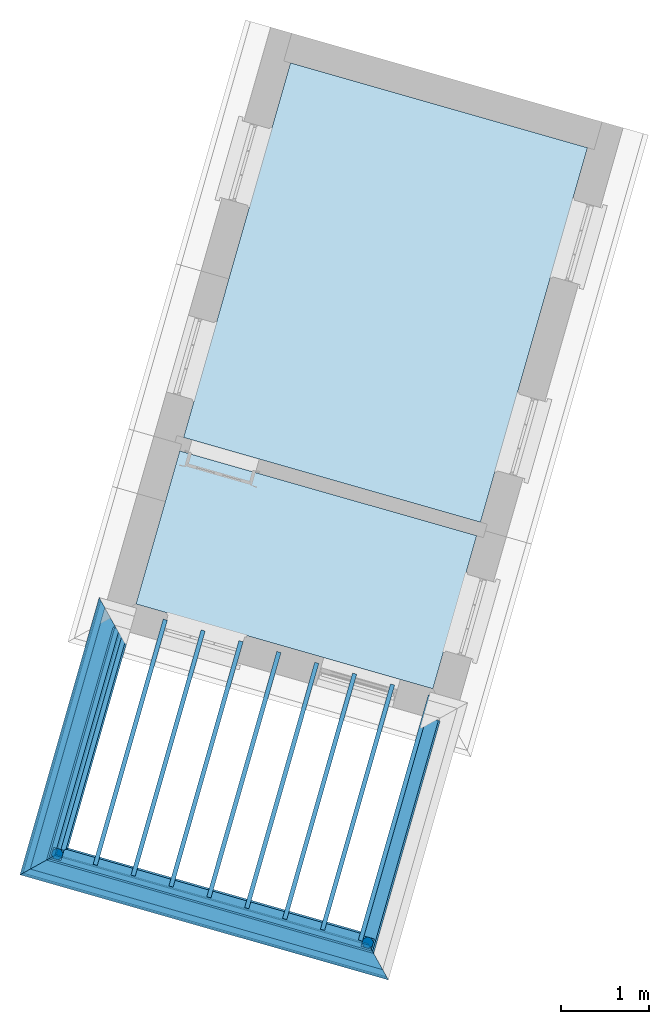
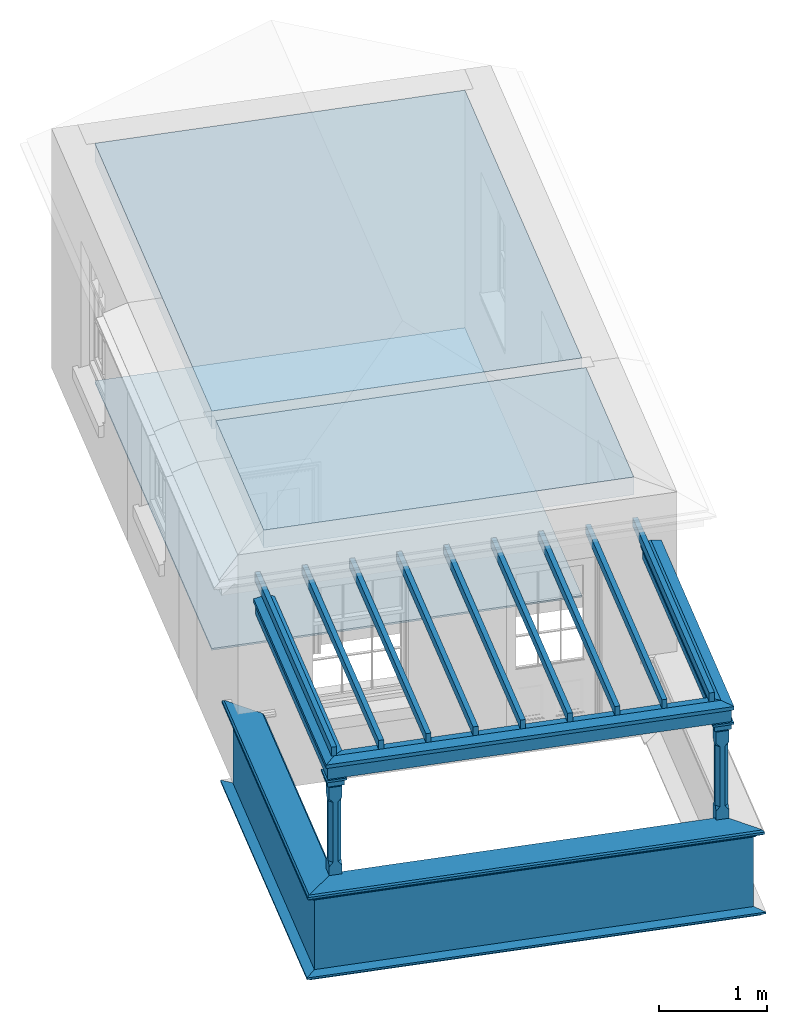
# One storey, part 1 of 4: 15 beams, 6 walls, 3 slabs, 2 columns.
"""IFC4 building model written with IfcOpenShell, lengths in metres."""

from ifc_helpers import new_model, si_unit, frame, origin, origin_with_axes, place, context, subcontext, project, spatial, polyline, outline, extrude, clip, halfspace, faceted_brep, source, transform, mapped, material_profile, profile_set, profile_usage, type_object, type_shapes, element, save


model = new_model("IFC4")

# Units and contexts
model_context = context("Model", 3, world=origin_with_axes())
body_context = subcontext(model_context, "Body", "Model", "MODEL_VIEW")
ifc_project = project(units=[si_unit("PLANEANGLEUNIT", "RADIAN"), si_unit("MASSUNIT", "GRAM", prefix="KILO"), si_unit("FORCEUNIT", "NEWTON", prefix="KILO"), si_unit("LENGTHUNIT", "METRE"), si_unit("AREAUNIT", "SQUARE_METRE"), si_unit("VOLUMEUNIT", "CUBIC_METRE")], contexts=[model_context, model_context])

# Sites, building, storey
site_1_placement = place(None, origin_with_axes())
site_1 = spatial("IfcSite", under=ifc_project, at=site_1_placement, Name="Tamar")
site_2_placement = place(site_1_placement, origin_with_axes())
site_2 = spatial("IfcSite", under=site_1, at=site_2_placement, Name="Site plot-20", CompositionType="ELEMENT")
building_placement = place(None, origin_with_axes())
building = spatial("IfcBuilding", under=site_2, at=building_placement, Name="Building plot-20", CompositionType="ELEMENT")
storey_placement = place(None, frame((0.0, 0.0, 31.85), z_axis=(0.0, 0.0, 1.0), x_axis=(1.0, 0.0, 0.0)))
storey = spatial("IfcBuildingStorey", under=building, at=storey_placement, Name="plot-20 2", CompositionType="ELEMENT", Elevation=31.85)

# Columns
column_type = type_object("IfcColumnType", Name="pergola post", PredefinedType="NOTDEFINED")
shared_shape = source(origin(), body_context, "Body", "Brep", [
    faceted_brep([(0.0246, -0.0615, 1.72), (0.0615, -0.0246, 1.72), (0.0615, -0.0615, 1.766667), (0.0615, -0.0246, 1.044444), (0.0246, -0.0615, 1.044444), (0.0615, 0.0246, 1.72), (0.0615, 0.0615, 1.766667), (-0.0246, -0.0615, 1.72), (-0.0615, -0.0615, 1.766667), (-0.0246, -0.0615, 1.044444), (0.0615, -0.0615, 0.997778), (0.0615, 0.0246, 1.044444), (0.0246, 0.0615, 1.72), (0.0615, 0.0615, 1.891111), (0.0615, -0.0615, 1.891111), (-0.0615, -0.0615, 1.891111), (-0.0615, -0.0246, 1.72), (-0.0615, -0.0246, 1.044444), (-0.0615, -0.0615, 0.997778), (0.0615, 0.0615, 0.997778), (0.0246, 0.0615, 1.044444), (-0.0246, 0.0615, 1.72), (-0.0615, 0.0615, 1.766667), (0.04305, 0.04305, 1.891111), (0.04305, -0.04305, 1.891111), (-0.0615, 0.0615, 1.891111), (-0.04305, -0.04305, 1.891111), (-0.0615, 0.0246, 1.72), (-0.0615, 0.0246, 1.044444), (0.0615, -0.0615, 0.053333), (-0.0615, -0.0615, 0.053333), (0.0615, 0.0615, 0.053333), (-0.0246, 0.0615, 1.044444), (-0.04305, 0.04305, 1.891111), (0.04305, 0.04305, 1.914444), (0.04305, -0.04305, 1.914444), (-0.04305, -0.04305, 1.914444), (-0.0615, 0.0615, 0.997778), (-0.0615, 0.0615, 0.053333), (-0.04305, -0.04305, 0.053333), (0.04305, -0.04305, 0.053333), (0.04305, 0.04305, 0.053333), (-0.04305, 0.04305, 1.914444), (0.07995, 0.07995, 1.914444), (0.07995, -0.07995, 1.914444), (-0.07995, -0.07995, 1.914444), (-0.04305, 0.04305, 0.053333), (-0.04305, -0.04305, 0.0), (0.04305, -0.04305, 0.0), (0.04305, 0.04305, 0.0), (-0.07995, 0.07995, 1.914444), (0.07995, 0.07995, 1.976667), (0.07995, -0.07995, 1.976667), (-0.07995, -0.07995, 1.976667), (-0.04305, 0.04305, 0.0), (-0.07995, 0.07995, 1.976667), (0.0984, 0.0984, 1.976667), (0.0984, -0.0984, 1.976667), (-0.0984, -0.0984, 1.976667), (-0.0984, 0.0984, 1.976667), (0.0984, 0.0984, 2.0), (0.0984, -0.0984, 2.0), (-0.0984, -0.0984, 2.0), (-0.0984, 0.0984, 2.0)], [[[0, 1, 2]], [[3, 1, 0, 4]], [[1, 5, 6, 2]], [[7, 0, 2, 8]], [[4, 0, 7, 9]], [[3, 4, 10]], [[1, 3, 11, 5]], [[5, 12, 6]], [[13, 14, 2, 6]], [[15, 8, 2, 14]], [[8, 16, 7]], [[9, 7, 16, 17]], [[9, 18, 10, 4]], [[3, 10, 19, 11]], [[20, 12, 5, 11]], [[21, 22, 6, 12]], [[14, 13, 23, 24]], [[13, 6, 22, 25]], [[25, 22, 8, 15]], [[26, 15, 14, 24]], [[16, 8, 22, 27]], [[27, 28, 17, 16]], [[17, 18, 9]], [[29, 10, 18, 30]], [[31, 19, 10, 29]], [[20, 11, 19]], [[12, 20, 32, 21]], [[21, 27, 22]], [[33, 23, 13, 25]], [[23, 34, 35, 24]], [[26, 33, 25, 15]], [[36, 26, 24, 35]], [[28, 27, 21, 32]], [[17, 28, 37, 18]], [[38, 30, 18, 37]], [[29, 30, 39, 40]], [[31, 38, 37, 19]], [[40, 41, 31, 29]], [[32, 20, 19, 37]], [[33, 42, 34, 23]], [[43, 44, 35, 34]], [[42, 33, 26, 36]], [[36, 35, 44, 45]], [[28, 32, 37]], [[46, 39, 30, 38]], [[39, 47, 48, 40]], [[46, 38, 31, 41]], [[49, 41, 40, 48]], [[43, 34, 42, 50]], [[43, 51, 52, 44]], [[45, 50, 42, 36]], [[53, 45, 44, 52]], [[46, 54, 47, 39]], [[54, 46, 41, 49]], [[50, 55, 51, 43]], [[56, 57, 52, 51]], [[55, 50, 45, 53]], [[53, 52, 57, 58]], [[56, 51, 55, 59]], [[56, 60, 61, 57]], [[58, 59, 55, 53]], [[62, 58, 57, 61]], [[59, 63, 60, 56]], [[63, 62, 61, 60]], [[58, 62, 63, 59]], [[47, 54, 49, 48]]]),
])
type_shapes(column_type, [shared_shape])
for number, where, z_axis, x_axis, name in (
    (1, (276.24428953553, 284.749435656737, 0.0), (0.0, 0.0, 1.0), (0.961567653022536, -0.274568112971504, 0.0), "pergola post"),
    (2, (279.789367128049, 283.737166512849, 0.0), (0.0, 0.0, 1.0), (0.274568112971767, 0.961567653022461, 0.0), "pergola post"),
):
    element("IfcColumn", number, at=place(storey_placement, frame(where, z_axis=z_axis, x_axis=x_axis)), inside=storey, type_object=column_type, Name=name, context=body_context, shape_type="MappedRepresentation", body=[
        mapped(shared_shape, transform((0.0, 0.0, 0.0), scale=1.0)),
    ])

# Beams
ifc_material_profile_1 = material_profile(None, outline(polyline([(-0.08, -0.7), (0.08, -0.7), (0.08, -0.56), (-0.08, -0.56), (-0.08, -0.7)])))
ifc_profile_set_1 = profile_set([ifc_material_profile_1])
ifc_profile_usage_1 = profile_usage(ifc_profile_set_1)
beam_type_1 = type_object("IfcBeamType", Name="pergola beam_0", PredefinedType="NOTDEFINED", material=ifc_profile_set_1)
beam_1_placement = place(storey_placement, frame((275.969721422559, 283.787868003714, 2.7), z_axis=(0.274568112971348, 0.96156765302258, 0.0), x_axis=(-0.96156765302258, 0.274568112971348, 0.0)))
element("IfcBeam", 3, at=beam_1_placement, inside=storey, type_object=beam_type_1, material=ifc_profile_usage_1, Name="pergola beam_0", context=body_context, shape_type="Clipping", body=[
    clip(clip(extrude(outline(polyline([(-0.08, -0.7), (0.08, -0.7), (0.08, -0.56), (-0.08, -0.56), (-0.08, -0.7)])), origin_with_axes(), (0.0, 0.0, 1.0), 4.66306381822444), halfspace(frame((0.0, 0.0, 3.66306381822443), z_axis=(-1.51602654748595e-14, 0.0, -1.0), x_axis=(0.0, 1.0, 0.0)), True)), halfspace(frame((0.0, 0.0, 1.0), z_axis=(-0.707106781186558, 0.0, -0.707106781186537), x_axis=(0.0, 1.0, 0.0)), False)),
])
ifc_profile_usage_2 = profile_usage(ifc_profile_set_1)
beam_2_placement = place(storey_placement, frame((280.750934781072, 283.462598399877, 2.7), z_axis=(-0.961567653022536, 0.274568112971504, 0.0), x_axis=(-0.274568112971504, -0.961567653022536, 0.0)))
element("IfcBeam", 4, at=beam_2_placement, inside=storey, type_object=beam_type_1, material=ifc_profile_usage_2, Name="pergola beam_0", context=body_context, shape_type="Clipping", body=[
    clip(clip(extrude(outline(polyline([(-0.08, -0.7), (0.08, -0.7), (0.08, -0.56), (-0.08, -0.56), (-0.08, -0.7)])), origin_with_axes(), (0.0, 0.0, 1.0), 5.68676876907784), halfspace(frame((0.0, 0.0, 4.68676876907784), z_axis=(0.707106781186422, 0.0, -0.707106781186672), x_axis=(0.0, 1.0, 0.0)), True)), halfspace(frame((0.0, 0.0, 1.0), z_axis=(-0.707106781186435, 0.0, -0.70710678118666), x_axis=(0.0, 1.0, 0.0)), False)),
])
ifc_profile_usage_3 = profile_usage(ifc_profile_set_1)
beam_3_placement = place(storey_placement, frame((280.795127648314, 287.25945019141, 2.7), z_axis=(-0.274568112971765, -0.961567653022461, 0.0), x_axis=(0.961567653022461, -0.274568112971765, 0.0)))
element("IfcBeam", 5, at=beam_3_placement, inside=storey, type_object=beam_type_1, material=ifc_profile_usage_3, Name="pergola beam_0", context=body_context, shape_type="Clipping", body=[
    clip(clip(extrude(outline(polyline([(-0.08, -0.7), (0.08, -0.7), (0.08, -0.56), (-0.08, -0.56), (-0.08, -0.7)])), origin_with_axes(), (0.0, 0.0, 1.0), 4.6630638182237), halfspace(frame((0.0, 0.0, 3.6630638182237), z_axis=(0.707106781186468, 0.0, -0.707106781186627), x_axis=(0.0, 1.0, 0.0)), True)), halfspace(frame((0.0, 0.0, 1.0), z_axis=(1.99227821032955e-14, 0.0, -1.0), x_axis=(0.0, 1.0, 0.0)), False)),
])
ifc_material_profile_2 = material_profile(None, outline(polyline([(0.0, -0.5), (-0.1, -0.52), (-0.1, -0.56), (0.1, -0.56), (0.1, -0.52), (0.0, -0.5)])))
ifc_profile_set_2 = profile_set([ifc_material_profile_2])
ifc_profile_usage_4 = profile_usage(ifc_profile_set_2)
beam_type_2 = type_object("IfcBeamType", Name="pergola beam_1", PredefinedType="NOTDEFINED", material=ifc_profile_set_2)
beam_4_placement = place(storey_placement, frame((275.969721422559, 283.787868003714, 2.7), z_axis=(0.274568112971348, 0.96156765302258, 0.0), x_axis=(-0.96156765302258, 0.274568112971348, 0.0)))
element("IfcBeam", 6, at=beam_4_placement, inside=storey, type_object=beam_type_2, material=ifc_profile_usage_4, Name="pergola beam_1", context=body_context, shape_type="Clipping", body=[
    clip(clip(extrude(outline(polyline([(0.0, -0.5), (-0.1, -0.52), (-0.1, -0.56), (0.1, -0.56), (0.1, -0.52), (0.0, -0.5)])), origin_with_axes(), (0.0, 0.0, 1.0), 4.66306381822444), halfspace(frame((0.0, 0.0, 3.66306381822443), z_axis=(-1.51602654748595e-14, 0.0, -1.0), x_axis=(0.0, 1.0, 0.0)), True)), halfspace(frame((0.0, 0.0, 1.0), z_axis=(-0.707106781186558, 0.0, -0.707106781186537), x_axis=(0.0, 1.0, 0.0)), False)),
])
ifc_profile_usage_5 = profile_usage(ifc_profile_set_2)
beam_5_placement = place(storey_placement, frame((280.750934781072, 283.462598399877, 2.7), z_axis=(-0.961567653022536, 0.274568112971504, 0.0), x_axis=(-0.274568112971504, -0.961567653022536, 0.0)))
element("IfcBeam", 7, at=beam_5_placement, inside=storey, type_object=beam_type_2, material=ifc_profile_usage_5, Name="pergola beam_1", context=body_context, shape_type="Clipping", body=[
    clip(clip(extrude(outline(polyline([(0.0, -0.5), (-0.1, -0.52), (-0.1, -0.56), (0.1, -0.56), (0.1, -0.52), (0.0, -0.5)])), origin_with_axes(), (0.0, 0.0, 1.0), 5.68676876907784), halfspace(frame((0.0, 0.0, 4.68676876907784), z_axis=(0.707106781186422, 0.0, -0.707106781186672), x_axis=(0.0, 1.0, 0.0)), True)), halfspace(frame((0.0, 0.0, 1.0), z_axis=(-0.707106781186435, 0.0, -0.70710678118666), x_axis=(0.0, 1.0, 0.0)), False)),
])
ifc_profile_usage_6 = profile_usage(ifc_profile_set_2)
beam_6_placement = place(storey_placement, frame((280.795127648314, 287.25945019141, 2.7), z_axis=(-0.274568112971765, -0.961567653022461, 0.0), x_axis=(0.961567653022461, -0.274568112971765, 0.0)))
element("IfcBeam", 8, at=beam_6_placement, inside=storey, type_object=beam_type_2, material=ifc_profile_usage_6, Name="pergola beam_1", context=body_context, shape_type="Clipping", body=[
    clip(clip(extrude(outline(polyline([(0.0, -0.5), (-0.1, -0.52), (-0.1, -0.56), (0.1, -0.56), (0.1, -0.52), (0.0, -0.5)])), origin_with_axes(), (0.0, 0.0, 1.0), 4.6630638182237), halfspace(frame((0.0, 0.0, 3.6630638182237), z_axis=(0.707106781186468, 0.0, -0.707106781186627), x_axis=(0.0, 1.0, 0.0)), True)), halfspace(frame((0.0, 0.0, 1.0), z_axis=(1.99227821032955e-14, 0.0, -1.0), x_axis=(0.0, 1.0, 0.0)), False)),
])
for number, where, name in (
    (9, (276.220250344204, 284.756299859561, 2.2), "My Beam"),
    (10, (276.652955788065, 284.632744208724, 2.2), "My Beam"),
    (11, (277.085661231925, 284.509188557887, 2.2), "My Beam"),
):
    element("IfcBeam", number, at=place(storey_placement, frame(where)), inside=storey, Name=name, ObjectType="Beam", context=body_context, shape_type="SweptSolid", body=[
        extrude(outline(polyline([(0.0, 0.0), (0.0480783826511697, -0.0137284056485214), (0.847912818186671, 2.78737953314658), (0.799834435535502, 2.8011079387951), (0.0, 0.0)])), origin_with_axes(), (0.0, 0.0, 1.0), 0.1),
    ])
for number, where, name in (
    (12, (277.518366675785, 284.38563290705, 2.2), "My Beam"),
    (13, (277.951072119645, 284.262077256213, 2.2), "My Beam"),
):
    element("IfcBeam", number, at=place(storey_placement, frame(where)), inside=storey, Name=name, ObjectType="Beam", context=body_context, shape_type="SweptSolid", body=[
        extrude(outline(polyline([(0.0, 0.0), (0.0480783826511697, -0.0137284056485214), (0.847912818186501, 2.78737953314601), (0.799834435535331, 2.80110793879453), (0.0, 0.0)])), origin_with_axes(), (0.0, 0.0, 1.0), 0.1),
    ])
beam_7_placement = place(storey_placement, frame((278.383777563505, 284.138521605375, 2.2)))
element("IfcBeam", 14, at=beam_7_placement, inside=storey, Name="My Beam", ObjectType="Beam", context=body_context, shape_type="SweptSolid", body=[
    extrude(outline(polyline([(0.0, 0.0), (0.0480783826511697, -0.0137284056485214), (0.847912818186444, 2.7873795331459), (0.799834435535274, 2.80110793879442), (0.0, 0.0)])), origin_with_axes(), (0.0, 0.0, 1.0), 0.1),
])
for number, where, name in (
    (15, (278.816483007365, 284.014965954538, 2.2), "My Beam"),
    (16, (279.249188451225, 283.891410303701, 2.2), "My Beam"),
    (17, (279.681893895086, 283.767854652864, 2.2), "My Beam"),
):
    element("IfcBeam", number, at=place(storey_placement, frame(where)), inside=storey, Name=name, ObjectType="Beam", context=body_context, shape_type="SweptSolid", body=[
        extrude(outline(polyline([(0.0, 0.0), (0.0480783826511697, -0.0137284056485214), (0.847912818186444, 2.78737953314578), (0.799834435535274, 2.8011079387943), (0.0, 0.0)])), origin_with_axes(), (0.0, 0.0, 1.0), 0.1),
    ])

# Slabs
slab_1_placement = place(storey_placement, frame((277.642229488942, 289.353808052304, 2.5)))
element("IfcSlab", 18, at=slab_1_placement, inside=storey, Name="My Slab", ObjectType="Slab", PredefinedType="FLOOR", context=body_context, shape_type="SweptSolid", body=[
    extrude(outline(polyline([(0.0, 0.0), (-0.499214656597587, -1.74830449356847), (2.89201211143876, -2.71664273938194), (3.39122676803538, -0.968338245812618), (0.0, 0.0)])), origin_with_axes(), (0.0, 0.0, 1.0), 0.2),
])
slab_2_placement = place(storey_placement, frame((282.298873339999, 292.817099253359, 2.5)))
element("IfcSlab", 19, at=slab_2_placement, inside=storey, Name="My Slab", ObjectType="Slab", PredefinedType="FLOOR", context=body_context, shape_type="SweptSolid", body=[
    extrude(outline(polyline([(0.0, 0.0), (-3.39122676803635, 0.968338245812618), (-4.61271295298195, -3.30944037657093), (-1.22148618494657, -4.27777862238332), (0.0, 0.0)])), origin_with_axes(), (0.0, 0.0, 1.0), 0.2),
])
slab_3_placement = place(storey_placement, frame((282.298873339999, 292.817099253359, 0.0)))
element("IfcSlab", 20, at=slab_3_placement, inside=storey, Name="My Slab", ObjectType="Slab", PredefinedType="FLOOR", context=body_context, shape_type="SweptSolid", body=[
    extrude(outline(polyline([(0.0, 0.0), (-3.39122676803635, 0.968338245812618), (-4.61271295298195, -3.30944037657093), (-1.22148618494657, -4.27777862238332), (0.0, 0.0)])), origin_with_axes(), (0.0, 0.0, 1.0), 0.02),
])

# Walls
ifc_material_profile_3 = material_profile(None, outline(polyline([(0.25, 0.0), (0.25, 0.795), (0.09, 0.795), (0.09, 0.02), (-0.08, 0.02), (-0.08, 0.0), (0.25, 0.0)])))
ifc_profile_set_3 = profile_set([ifc_material_profile_3])
ifc_profile_usage_7 = profile_usage(ifc_profile_set_3)
wall_type_1 = type_object("IfcWallType", Name="parapet_0", PredefinedType="PARAPET", material=ifc_profile_set_3)
wall_1_placement = place(storey_placement, frame((275.969721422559, 283.787868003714, 0.0), z_axis=(0.274568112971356, 0.961567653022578, 0.0), x_axis=(-0.961567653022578, 0.274568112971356, 0.0)))
element("IfcWall", 21, at=wall_1_placement, inside=storey, type_object=wall_type_1, material=ifc_profile_usage_7, Name="parapet_0", context=body_context, shape_type="Clipping", body=[
    clip(clip(extrude(outline(polyline([(0.25, 0.0), (0.25, 0.795), (0.09, 0.795), (0.09, 0.02), (-0.08, 0.02), (-0.08, 0.0), (0.25, 0.0)])), origin_with_axes(), (0.0, 0.0, 1.0), 4.60306381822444), halfspace(frame((0.0, 0.0, 3.60306381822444), z_axis=(0.707106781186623, 0.0, -0.707106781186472), x_axis=(0.0, 1.0, 0.0)), True)), halfspace(frame((0.0, 0.0, 1.0), z_axis=(-0.707106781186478, 0.0, -0.707106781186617), x_axis=(0.0, 1.0, 0.0)), False)),
])
ifc_profile_usage_8 = profile_usage(ifc_profile_set_3)
wall_2_placement = place(storey_placement, frame((280.750934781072, 283.462598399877, 0.0), z_axis=(-0.961567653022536, 0.274568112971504, 0.0), x_axis=(-0.274568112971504, -0.961567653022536, 0.0)))
element("IfcWall", 22, at=wall_2_placement, inside=storey, type_object=wall_type_1, material=ifc_profile_usage_8, Name="parapet_0", context=body_context, shape_type="Clipping", body=[
    clip(clip(extrude(outline(polyline([(0.25, 0.0), (0.25, 0.795), (0.09, 0.795), (0.09, 0.02), (-0.08, 0.02), (-0.08, 0.0), (0.25, 0.0)])), origin_with_axes(), (0.0, 0.0, 1.0), 5.68676876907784), halfspace(frame((0.0, 0.0, 4.68676876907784), z_axis=(0.707106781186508, 0.0, -0.707106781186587), x_axis=(0.0, 1.0, 0.0)), True)), halfspace(frame((0.0, 0.0, 1.0), z_axis=(-0.70710678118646, 0.0, -0.707106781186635), x_axis=(0.0, 1.0, 0.0)), False)),
])
ifc_material_profile_4 = material_profile(None, outline(polyline([(0.265, 0.795), (0.268, 0.807), (0.274, 0.816), (0.283, 0.822), (0.295, 0.825), (0.295, 0.84), (0.305, 0.84), (0.317, 0.842), (0.326, 0.849), (0.333, 0.858), (0.335, 0.87), (0.333, 0.882), (0.326, 0.891), (0.317, 0.898), (0.305, 0.9), (0.035, 0.9), (0.023, 0.898), (0.014, 0.891), (0.007, 0.882), (0.005, 0.87), (0.007, 0.858), (0.014, 0.849), (0.023, 0.842), (0.035, 0.84), (0.045, 0.84), (0.045, 0.825), (0.057, 0.822), (0.066, 0.816), (0.072, 0.807), (0.075, 0.795), (0.265, 0.795)])))
ifc_profile_set_4 = profile_set([ifc_material_profile_4])
ifc_profile_usage_9 = profile_usage(ifc_profile_set_4)
wall_type_2 = type_object("IfcWallType", Name="parapet_1", PredefinedType="PARAPET", material=ifc_profile_set_4)
wall_3_placement = place(storey_placement, frame((275.969721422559, 283.787868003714, 0.0), z_axis=(0.274568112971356, 0.961567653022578, 0.0), x_axis=(-0.961567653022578, 0.274568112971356, 0.0)))
element("IfcWall", 23, at=wall_3_placement, inside=storey, type_object=wall_type_2, material=ifc_profile_usage_9, Name="parapet_1", context=body_context, shape_type="Clipping", body=[
    clip(clip(extrude(outline(polyline([(0.265, 0.795), (0.268, 0.807), (0.274, 0.816), (0.283, 0.822), (0.295, 0.825), (0.295, 0.84), (0.305, 0.84), (0.317, 0.842), (0.326, 0.849), (0.333, 0.858), (0.335, 0.87), (0.333, 0.882), (0.326, 0.891), (0.317, 0.898), (0.305, 0.9), (0.035, 0.9), (0.023, 0.898), (0.014, 0.891), (0.007, 0.882), (0.005, 0.87), (0.007, 0.858), (0.014, 0.849), (0.023, 0.842), (0.035, 0.84), (0.045, 0.84), (0.045, 0.825), (0.057, 0.822), (0.066, 0.816), (0.072, 0.807), (0.075, 0.795), (0.265, 0.795)])), origin_with_axes(), (0.0, 0.0, 1.0), 4.60306381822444), halfspace(frame((0.0, 0.0, 3.60306381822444), z_axis=(0.707106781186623, 0.0, -0.707106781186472), x_axis=(0.0, 1.0, 0.0)), True)), halfspace(frame((0.0, 0.0, 1.0), z_axis=(-0.707106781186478, 0.0, -0.707106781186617), x_axis=(0.0, 1.0, 0.0)), False)),
])
ifc_profile_usage_10 = profile_usage(ifc_profile_set_4)
wall_4_placement = place(storey_placement, frame((280.750934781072, 283.462598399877, 0.0), z_axis=(-0.961567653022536, 0.274568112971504, 0.0), x_axis=(-0.274568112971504, -0.961567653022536, 0.0)))
element("IfcWall", 24, at=wall_4_placement, inside=storey, type_object=wall_type_2, material=ifc_profile_usage_10, Name="parapet_1", context=body_context, shape_type="Clipping", body=[
    clip(clip(extrude(outline(polyline([(0.265, 0.795), (0.268, 0.807), (0.274, 0.816), (0.283, 0.822), (0.295, 0.825), (0.295, 0.84), (0.305, 0.84), (0.317, 0.842), (0.326, 0.849), (0.333, 0.858), (0.335, 0.87), (0.333, 0.882), (0.326, 0.891), (0.317, 0.898), (0.305, 0.9), (0.035, 0.9), (0.023, 0.898), (0.014, 0.891), (0.007, 0.882), (0.005, 0.87), (0.007, 0.858), (0.014, 0.849), (0.023, 0.842), (0.035, 0.84), (0.045, 0.84), (0.045, 0.825), (0.057, 0.822), (0.066, 0.816), (0.072, 0.807), (0.075, 0.795), (0.265, 0.795)])), origin_with_axes(), (0.0, 0.0, 1.0), 5.68676876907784), halfspace(frame((0.0, 0.0, 4.68676876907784), z_axis=(0.707106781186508, 0.0, -0.707106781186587), x_axis=(0.0, 1.0, 0.0)), True)), halfspace(frame((0.0, 0.0, 1.0), z_axis=(-0.70710678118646, 0.0, -0.707106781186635), x_axis=(0.0, 1.0, 0.0)), False)),
])
ifc_material_profile_5 = material_profile(None, outline(polyline([(0.25, -0.1), (0.265, -0.1), (0.265, -0.085), (0.278, -0.084), (0.289, -0.081), (0.301, -0.074), (0.309, -0.065), (0.315, -0.055), (0.324, -0.044), (0.334, -0.038), (0.345, -0.035), (0.345, -0.015), (0.25, 0.0), (0.25, -0.1)])))
ifc_profile_set_5 = profile_set([ifc_material_profile_5])
ifc_profile_usage_11 = profile_usage(ifc_profile_set_5)
wall_type_3 = type_object("IfcWallType", Name="parapet_2", PredefinedType="PARAPET", material=ifc_profile_set_5)
wall_5_placement = place(storey_placement, frame((275.969721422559, 283.787868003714, 0.0), z_axis=(0.274568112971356, 0.961567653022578, 0.0), x_axis=(-0.961567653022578, 0.274568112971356, 0.0)))
element("IfcWall", 25, at=wall_5_placement, inside=storey, type_object=wall_type_3, material=ifc_profile_usage_11, Name="parapet_2", context=body_context, shape_type="Clipping", body=[
    clip(clip(extrude(outline(polyline([(0.25, -0.1), (0.265, -0.1), (0.265, -0.085), (0.278, -0.084), (0.289, -0.081), (0.301, -0.074), (0.309, -0.065), (0.315, -0.055), (0.324, -0.044), (0.334, -0.038), (0.345, -0.035), (0.345, -0.015), (0.25, 0.0), (0.25, -0.1)])), origin_with_axes(), (0.0, 0.0, 1.0), 4.60306381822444), halfspace(frame((0.0, 0.0, 3.60306381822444), z_axis=(0.707106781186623, 0.0, -0.707106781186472), x_axis=(0.0, 1.0, 0.0)), True)), halfspace(frame((0.0, 0.0, 1.0), z_axis=(-0.707106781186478, 0.0, -0.707106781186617), x_axis=(0.0, 1.0, 0.0)), False)),
])
ifc_profile_usage_12 = profile_usage(ifc_profile_set_5)
wall_6_placement = place(storey_placement, frame((280.750934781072, 283.462598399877, 0.0), z_axis=(-0.961567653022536, 0.274568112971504, 0.0), x_axis=(-0.274568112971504, -0.961567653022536, 0.0)))
element("IfcWall", 26, at=wall_6_placement, inside=storey, type_object=wall_type_3, material=ifc_profile_usage_12, Name="parapet_2", context=body_context, shape_type="Clipping", body=[
    clip(clip(extrude(outline(polyline([(0.25, -0.1), (0.265, -0.1), (0.265, -0.085), (0.278, -0.084), (0.289, -0.081), (0.301, -0.074), (0.309, -0.065), (0.315, -0.055), (0.324, -0.044), (0.334, -0.038), (0.345, -0.035), (0.345, -0.015), (0.25, 0.0), (0.25, -0.1)])), origin_with_axes(), (0.0, 0.0, 1.0), 5.68676876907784), halfspace(frame((0.0, 0.0, 4.68676876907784), z_axis=(0.707106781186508, 0.0, -0.707106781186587), x_axis=(0.0, 1.0, 0.0)), True)), halfspace(frame((0.0, 0.0, 1.0), z_axis=(-0.70710678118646, 0.0, -0.707106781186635), x_axis=(0.0, 1.0, 0.0)), False)),
])

save(model, "model.ifc")
